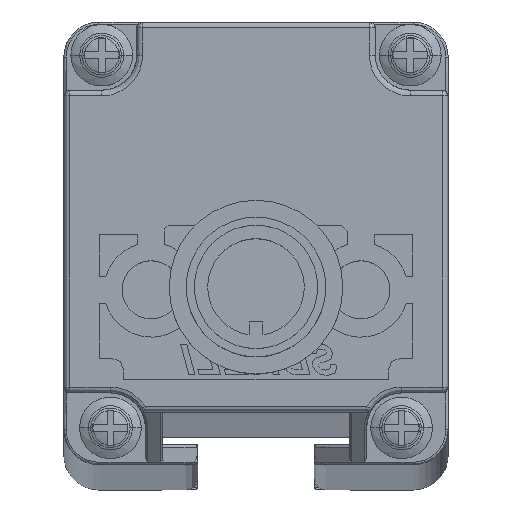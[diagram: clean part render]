
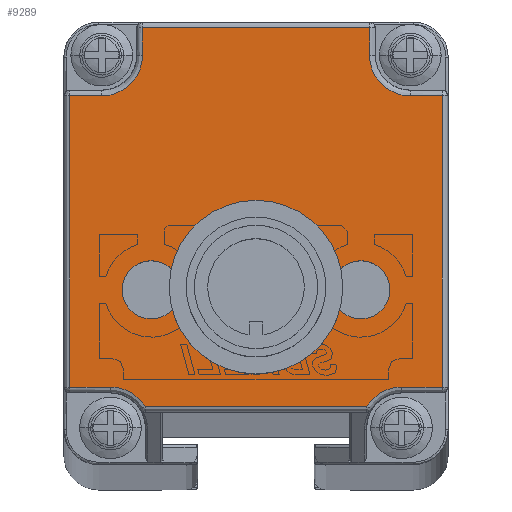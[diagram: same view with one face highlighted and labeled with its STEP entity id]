
A CAD part, top view. The second image highlights one B-rep face of the part: STEP entity #9289.
In plain terms, the highlighted planar face has unit normal (0, 0, 1).
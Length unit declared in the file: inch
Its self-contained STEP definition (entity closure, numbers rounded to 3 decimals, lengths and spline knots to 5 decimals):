
#2995=CARTESIAN_POINT('',(0.,-8.99843,0.));
#2996=DIRECTION('',(0.,0.,1.));
#2997=DIRECTION('',(1.,0.,0.));
#2998=AXIS2_PLACEMENT_3D('',#2995,#2996,#2997);
#3003=CARTESIAN_POINT('',(0.,-8.99843,0.));
#3004=DIRECTION('',(0.,0.,1.));
#3005=DIRECTION('',(-1.,0.,0.));
#3006=AXIS2_PLACEMENT_3D('',#3003,#3004,#3005);
#3011=CARTESIAN_POINT('',(9.,-8.99951,0.));
#3012=DIRECTION('',(0.,0.,1.));
#3013=DIRECTION('',(1.,-0.007,0.));
#3014=AXIS2_PLACEMENT_3D('',#3011,#3012,#3013);
#3019=CARTESIAN_POINT('',(9.,-8.99951,0.));
#3020=DIRECTION('',(0.,0.,1.));
#3021=DIRECTION('',(-1.,0.007,0.));
#3022=AXIS2_PLACEMENT_3D('',#3019,#3020,#3021);
#3027=CARTESIAN_POINT('',(-9.,-8.99794,0.));
#3028=DIRECTION('',(0.,0.,1.));
#3029=DIRECTION('',(1.,0.007,0.));
#3030=AXIS2_PLACEMENT_3D('',#3027,#3028,#3029);
#3035=CARTESIAN_POINT('',(-9.,-8.99794,0.));
#3036=DIRECTION('',(0.,0.,1.));
#3037=DIRECTION('',(-1.,-0.007,0.));
#3038=AXIS2_PLACEMENT_3D('',#3035,#3036,#3037);
#3043=CARTESIAN_POINT('',(-12.5,-20.84843,0.));
#3044=DIRECTION('',(0.,0.,1.));
#3045=DIRECTION('',(0.849,0.528,0.));
#3046=AXIS2_PLACEMENT_3D('',#3043,#3044,#3045);
#3051=CARTESIAN_POINT('',(-13.25,11.15,0.));
#3052=DIRECTION('',(0.,0.,1.));
#3053=DIRECTION('',(0.,-1.,0.));
#3054=AXIS2_PLACEMENT_3D('',#3051,#3052,#3053);
#3059=CARTESIAN_POINT('',(13.25,11.15,0.));
#3060=DIRECTION('',(0.,0.,1.));
#3061=DIRECTION('',(-1.,0.,0.));
#3062=AXIS2_PLACEMENT_3D('',#3059,#3060,#3061);
#3067=CARTESIAN_POINT('',(12.5,-20.84843,0.));
#3068=DIRECTION('',(0.,0.,1.));
#3069=DIRECTION('',(0.,1.,0.));
#3070=AXIS2_PLACEMENT_3D('',#3067,#3068,#3069);
#5794=DIRECTION('',(1.,0.,0.));
#5795=VECTOR('',#5794,3.5);
#5796=CARTESIAN_POINT('',(-16.,-17.34843,0.));
#5797=LINE('',#5796,#5795);
#6167=DIRECTION('',(1.,0.,0.));
#6168=VECTOR('',#6167,19.05583);
#6169=CARTESIAN_POINT('',(-9.52791,-19.,0.));
#6170=LINE('',#6169,#6168);
#6857=DIRECTION('',(0.,1.,0.));
#6858=VECTOR('',#6857,24.99843);
#6859=CARTESIAN_POINT('',(16.,-17.34843,0.));
#6860=LINE('',#6859,#6858);
#6895=DIRECTION('',(1.,0.,0.));
#6896=VECTOR('',#6895,3.5);
#6897=CARTESIAN_POINT('',(12.5,-17.34843,0.));
#6898=LINE('',#6897,#6896);
#6934=DIRECTION('',(-1.,0.,0.));
#6935=VECTOR('',#6934,2.75);
#6936=CARTESIAN_POINT('',(16.,7.65,0.));
#6937=LINE('',#6936,#6935);
#6979=DIRECTION('',(0.,1.,0.));
#6980=VECTOR('',#6979,2.35);
#6981=CARTESIAN_POINT('',(9.75,11.15,0.));
#6982=LINE('',#6981,#6980);
#7328=DIRECTION('',(-1.,0.,0.));
#7329=VECTOR('',#7328,19.5);
#7330=CARTESIAN_POINT('',(9.75,13.5,0.));
#7331=LINE('',#7330,#7329);
#7391=DIRECTION('',(0.,-1.,0.));
#7392=VECTOR('',#7391,2.35);
#7393=CARTESIAN_POINT('',(-9.75,13.5,0.));
#7394=LINE('',#7393,#7392);
#7436=DIRECTION('',(-1.,0.,0.));
#7437=VECTOR('',#7436,2.75);
#7438=CARTESIAN_POINT('',(-13.25,7.65,0.));
#7439=LINE('',#7438,#7437);
#7715=DIRECTION('',(0.,-1.,0.));
#7716=VECTOR('',#7715,24.99843);
#7717=CARTESIAN_POINT('',(-16.,7.65,0.));
#7718=LINE('',#7717,#7716);
#8377=CARTESIAN_POINT('',(11.49995,-9.01591,0.));
#8378=VERTEX_POINT('',#8377);
#8379=CARTESIAN_POINT('',(6.50005,-8.9831,0.));
#8380=VERTEX_POINT('',#8379);
#8381=CARTESIAN_POINT('',(-9.52791,-19.,0.));
#8382=CARTESIAN_POINT('',(-12.5,-17.34843,0.));
#8383=VERTEX_POINT('',#8381);
#8384=VERTEX_POINT('',#8382);
#8385=CARTESIAN_POINT('',(-16.,-17.34843,0.));
#8386=VERTEX_POINT('',#8385);
#8387=CARTESIAN_POINT('',(-16.,7.65,0.));
#8388=VERTEX_POINT('',#8387);
#8389=CARTESIAN_POINT('',(-13.25,7.65,0.));
#8390=VERTEX_POINT('',#8389);
#8391=CARTESIAN_POINT('',(-9.75,11.15,0.));
#8392=VERTEX_POINT('',#8391);
#8393=CARTESIAN_POINT('',(-9.75,13.5,0.));
#8394=VERTEX_POINT('',#8393);
#8395=CARTESIAN_POINT('',(9.75,13.5,0.));
#8396=VERTEX_POINT('',#8395);
#8397=CARTESIAN_POINT('',(9.75,11.15,0.));
#8398=VERTEX_POINT('',#8397);
#8399=CARTESIAN_POINT('',(13.25,7.65,0.));
#8400=VERTEX_POINT('',#8399);
#8401=CARTESIAN_POINT('',(16.,7.65,0.));
#8402=VERTEX_POINT('',#8401);
#8403=CARTESIAN_POINT('',(16.,-17.34843,0.));
#8404=VERTEX_POINT('',#8403);
#8405=CARTESIAN_POINT('',(12.5,-17.34843,0.));
#8406=VERTEX_POINT('',#8405);
#8407=CARTESIAN_POINT('',(9.52791,-19.,0.));
#8408=VERTEX_POINT('',#8407);
#8409=CARTESIAN_POINT('',(-6.50005,-8.98154,0.));
#8410=CARTESIAN_POINT('',(-11.49995,-9.01433,0.));
#8411=VERTEX_POINT('',#8409);
#8412=VERTEX_POINT('',#8410);
#8413=CARTESIAN_POINT('',(3.,-8.99843,0.));
#8414=CARTESIAN_POINT('',(-3.,-8.99843,0.));
#8415=VERTEX_POINT('',#8413);
#8416=VERTEX_POINT('',#8414);
#9238=CARTESIAN_POINT('',(0.,0.,0.));
#9239=DIRECTION('',(0.,0.,1.));
#9240=DIRECTION('',(1.,0.,0.));
#9241=AXIS2_PLACEMENT_3D('',#9238,#9239,#9240);
#9242=PLANE('',#9241);
#9244=ORIENTED_EDGE('',*,*,#9243,.T.);
#9246=ORIENTED_EDGE('',*,*,#9245,.F.);
#9248=ORIENTED_EDGE('',*,*,#9247,.F.);
#9250=ORIENTED_EDGE('',*,*,#9249,.F.);
#9252=ORIENTED_EDGE('',*,*,#9251,.T.);
#9254=ORIENTED_EDGE('',*,*,#9253,.F.);
#9256=ORIENTED_EDGE('',*,*,#9255,.F.);
#9258=ORIENTED_EDGE('',*,*,#9257,.F.);
#9260=ORIENTED_EDGE('',*,*,#9259,.T.);
#9262=ORIENTED_EDGE('',*,*,#9261,.F.);
#9264=ORIENTED_EDGE('',*,*,#9263,.F.);
#9266=ORIENTED_EDGE('',*,*,#9265,.F.);
#9268=ORIENTED_EDGE('',*,*,#9267,.T.);
#9270=ORIENTED_EDGE('',*,*,#9269,.F.);
#9271=EDGE_LOOP('',(#9244,#9246,#9248,#9250,#9252,#9254,#9256,#9258,#9260,#9262,
#9264,#9266,#9268,#9270));
#9272=FACE_OUTER_BOUND('',#9271,.F.);
#9274=ORIENTED_EDGE('',*,*,#9273,.T.);
#9276=ORIENTED_EDGE('',*,*,#9275,.T.);
#9277=EDGE_LOOP('',(#9274,#9276));
#9278=FACE_BOUND('',#9277,.F.);
#9279=ORIENTED_EDGE('',*,*,#9232,.T.);
#9280=ORIENTED_EDGE('',*,*,#9207,.T.);
#9281=EDGE_LOOP('',(#9279,#9280));
#9282=FACE_BOUND('',#9281,.F.);
#9284=ORIENTED_EDGE('',*,*,#9283,.T.);
#9286=ORIENTED_EDGE('',*,*,#9285,.T.);
#9287=EDGE_LOOP('',(#9284,#9286));
#9288=FACE_BOUND('',#9287,.F.);
#2999=CIRCLE('',#2998,3.);
#3007=CIRCLE('',#3006,3.);
#3015=CIRCLE('',#3014,2.5);
#3023=CIRCLE('',#3022,2.5);
#3031=CIRCLE('',#3030,2.5);
#3039=CIRCLE('',#3038,2.5);
#3047=CIRCLE('',#3046,3.5);
#3055=CIRCLE('',#3054,3.5);
#3063=CIRCLE('',#3062,3.5);
#3071=CIRCLE('',#3070,3.5);
#9207=EDGE_CURVE('',#8412,#8411,#3039,.T.);
#9232=EDGE_CURVE('',#8411,#8412,#3031,.T.);
#9243=EDGE_CURVE('',#8383,#8384,#3047,.T.);
#9245=EDGE_CURVE('',#8386,#8384,#5797,.T.);
#9247=EDGE_CURVE('',#8388,#8386,#7718,.T.);
#9249=EDGE_CURVE('',#8390,#8388,#7439,.T.);
#9251=EDGE_CURVE('',#8390,#8392,#3055,.T.);
#9253=EDGE_CURVE('',#8394,#8392,#7394,.T.);
#9255=EDGE_CURVE('',#8396,#8394,#7331,.T.);
#9257=EDGE_CURVE('',#8398,#8396,#6982,.T.);
#9259=EDGE_CURVE('',#8398,#8400,#3063,.T.);
#9261=EDGE_CURVE('',#8402,#8400,#6937,.T.);
#9263=EDGE_CURVE('',#8404,#8402,#6860,.T.);
#9265=EDGE_CURVE('',#8406,#8404,#6898,.T.);
#9267=EDGE_CURVE('',#8406,#8408,#3071,.T.);
#9269=EDGE_CURVE('',#8383,#8408,#6170,.T.);
#9273=EDGE_CURVE('',#8378,#8380,#3015,.T.);
#9275=EDGE_CURVE('',#8380,#8378,#3023,.T.);
#9283=EDGE_CURVE('',#8415,#8416,#2999,.T.);
#9285=EDGE_CURVE('',#8416,#8415,#3007,.T.);
#9289=ADVANCED_FACE('',(#9272,#9278,#9282,#9288),#9242,.T.);
